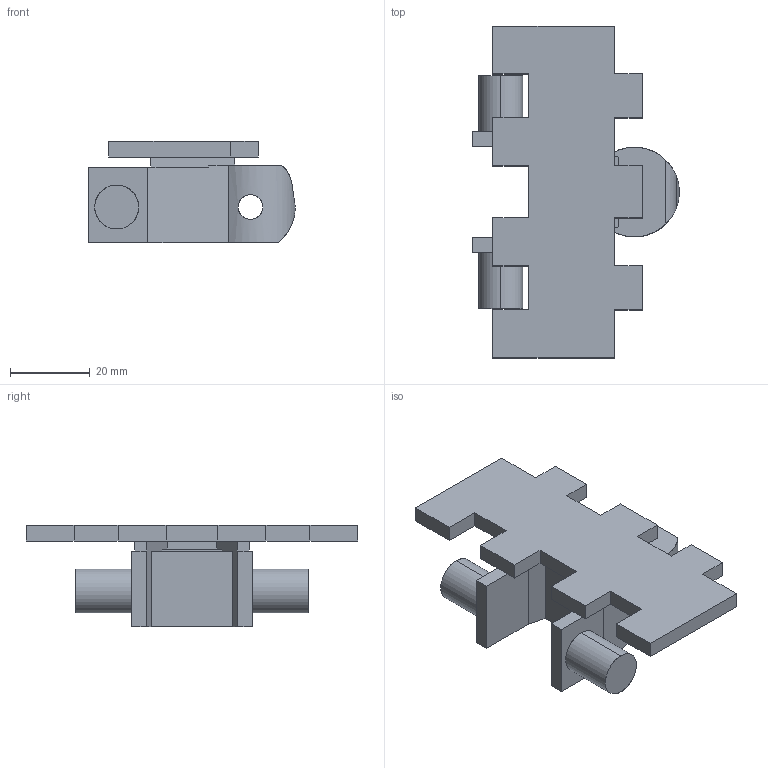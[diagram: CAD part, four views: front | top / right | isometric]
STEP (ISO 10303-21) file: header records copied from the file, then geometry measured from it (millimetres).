
FILE_DESCRIPTION (( 'STEP AP214' ), '1' );
FILE_NAME ('FMPC-5-R500.STEP', '2011-09-28T08:36:51', ( '.' ), ( '' ), 'SwSTEP 2.0', 'SolidWorks 2010', '' );
FILE_SCHEMA (( 'AUTOMOTIVE_DESIGN' ));
Length unit declared in the file: millimetre
Products named in the file (1): FMPC-5-R500
Bounding box: 51.65 x 83 x 25.5 mm (x, y, z)
Surface area: 12642.7 mm2 (no closed solid volume)
Topology: 0 solids, 69 shells, 72 faces, 387 edges, 381 vertices
Faces by surface type: plane 62, cylinder 10
Entity records: 5337 total; most frequent: CARTESIAN_POINT 2463, DIRECTION 510, ORIENTED_EDGE 393, EDGE_CURVE 387, VERTEX_POINT 381, VECTOR 340, LINE 340, AXIS2_PLACEMENT_3D 85
